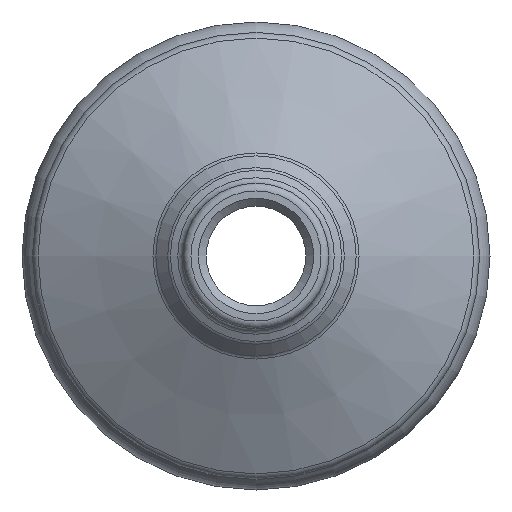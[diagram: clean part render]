
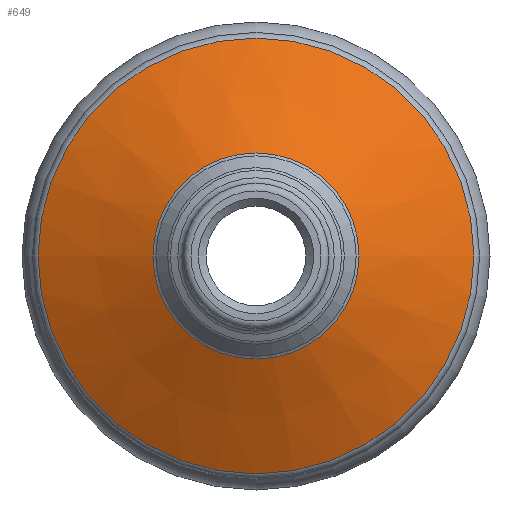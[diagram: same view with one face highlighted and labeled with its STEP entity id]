
A CAD part, front view. The second image highlights one B-rep face of the part: STEP entity #649.
In plain terms, the highlighted conical face has half-angle 62.949 degrees and reference radius 31.25 mm.
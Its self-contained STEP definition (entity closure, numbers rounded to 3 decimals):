
#58=FACE_OUTER_BOUND('',#90,.T.);
#90=EDGE_LOOP('',(#552,#553,#554,#555,#556,#557,#558,#559));
#110=LINE('',#1215,#127);
#127=VECTOR('',#988,31.25);
#196=CIRCLE('',#762,19.821);
#198=CIRCLE('',#764,19.821);
#199=CIRCLE('',#765,19.821);
#200=CIRCLE('',#767,41.91);
#201=CIRCLE('',#768,41.91);
#202=CIRCLE('',#769,41.91);
#278=VERTEX_POINT('',#1206);
#279=VERTEX_POINT('',#1207);
#280=VERTEX_POINT('',#1210);
#281=VERTEX_POINT('',#1214);
#282=VERTEX_POINT('',#1216);
#283=VERTEX_POINT('',#1218);
#374=EDGE_CURVE('',#278,#279,#196,.T.);
#376=EDGE_CURVE('',#279,#280,#198,.T.);
#377=EDGE_CURVE('',#280,#278,#199,.T.);
#378=EDGE_CURVE('',#280,#281,#110,.T.);
#379=EDGE_CURVE('',#282,#281,#200,.T.);
#380=EDGE_CURVE('',#283,#282,#201,.T.);
#381=EDGE_CURVE('',#281,#283,#202,.T.);
#552=ORIENTED_EDGE('',*,*,#374,.F.);
#553=ORIENTED_EDGE('',*,*,#377,.F.);
#554=ORIENTED_EDGE('',*,*,#378,.T.);
#555=ORIENTED_EDGE('',*,*,#379,.F.);
#556=ORIENTED_EDGE('',*,*,#380,.F.);
#557=ORIENTED_EDGE('',*,*,#381,.F.);
#558=ORIENTED_EDGE('',*,*,#378,.F.);
#559=ORIENTED_EDGE('',*,*,#376,.F.);
#625=CONICAL_SURFACE('',#766,31.25,1.099);
#649=ADVANCED_FACE('',(#58),#625,.T.);
#762=AXIS2_PLACEMENT_3D('',#1208,#978,#979);
#764=AXIS2_PLACEMENT_3D('',#1211,#982,#983);
#765=AXIS2_PLACEMENT_3D('',#1212,#984,#985);
#766=AXIS2_PLACEMENT_3D('',#1213,#986,#987);
#767=AXIS2_PLACEMENT_3D('',#1217,#989,#990);
#768=AXIS2_PLACEMENT_3D('',#1219,#991,#992);
#769=AXIS2_PLACEMENT_3D('',#1220,#993,#994);
#978=DIRECTION('center_axis',(0.,-1.,0.));
#979=DIRECTION('ref_axis',(-1.,0.,0.));
#982=DIRECTION('center_axis',(0.,-1.,0.));
#983=DIRECTION('ref_axis',(-1.,0.,0.));
#984=DIRECTION('center_axis',(0.,-1.,0.));
#985=DIRECTION('ref_axis',(-1.,0.,0.));
#986=DIRECTION('center_axis',(0.,1.,0.));
#987=DIRECTION('ref_axis',(1.,0.,0.));
#988=DIRECTION('',(-0.891,0.455,0.));
#989=DIRECTION('center_axis',(0.,1.,0.));
#990=DIRECTION('ref_axis',(-1.,0.,0.));
#991=DIRECTION('center_axis',(0.,1.,0.));
#992=DIRECTION('ref_axis',(-1.,0.,0.));
#993=DIRECTION('center_axis',(0.,1.,0.));
#994=DIRECTION('ref_axis',(-1.,0.,0.));
#1206=CARTESIAN_POINT('',(19.821,12.164,0.));
#1207=CARTESIAN_POINT('',(0.,12.164,19.821));
#1208=CARTESIAN_POINT('Origin',(0.,12.164,0.));
#1210=CARTESIAN_POINT('',(-19.821,12.164,0.));
#1211=CARTESIAN_POINT('Origin',(0.,12.164,0.));
#1212=CARTESIAN_POINT('Origin',(0.,12.164,0.));
#1213=CARTESIAN_POINT('Origin',(0.,18.,0.));
#1214=CARTESIAN_POINT('',(-41.91,23.443,0.));
#1215=CARTESIAN_POINT('',(-31.25,18.,0.));
#1216=CARTESIAN_POINT('',(41.91,23.443,0.));
#1217=CARTESIAN_POINT('Origin',(0.,23.443,0.));
#1218=CARTESIAN_POINT('',(0.,23.443,41.91));
#1219=CARTESIAN_POINT('Origin',(0.,23.443,0.));
#1220=CARTESIAN_POINT('Origin',(0.,23.443,0.));
